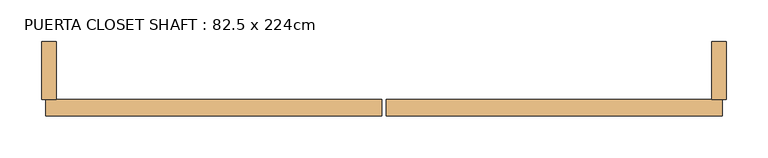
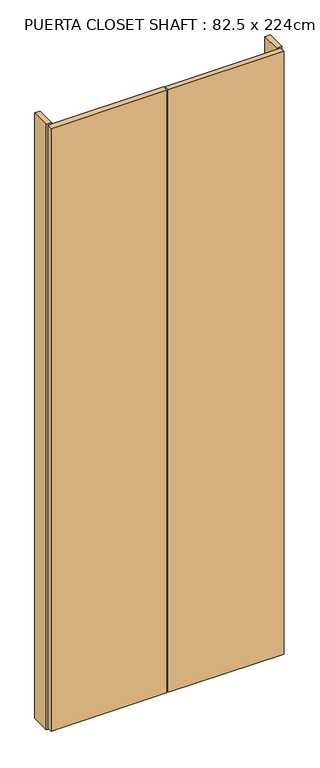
"""IFC4 building model written with IfcOpenShell, lengths in millimetres: door geometry, PUERTA CLOSET SHAFT : 82.5 x 224cm."""

import ifcopenshell
import ifcopenshell.guid

model = None  # the IFC model being written
_history = None  # IfcOwnerHistory: only IFC2X3 demands one
_inside = {}  # id of a spatial element -> (the spatial element, [elements in it])
_under = {}  # id of a project, library or spatial element -> (it, [spatial elements below it])
_declared = {}  # id of a project -> (the project, [libraries it declares])
_typed = {}  # id of a type object -> (the type object, [elements of that type])
_made_of = {}  # id of a material, layer set ... -> (it, [elements and type objects made of it])


def new_model(schema):
    """Start an empty IFC model of exactly this schema.

    Asked for "IFC4X3", IfcOpenShell would pick the latest addendum, in which some entities
    have other attributes; the version numbers below select the first issue.
    IFC2X3 requires an IfcOwnerHistory on every rooted entity: one is made here for all.
    """
    global model, _history
    if schema == "IFC4X3":
        model = ifcopenshell.file(schema_version=(4, 3, 0, 0))
    else:
        model = ifcopenshell.file(schema=schema)
    _inside.clear()
    _under.clear()
    _declared.clear()
    _typed.clear()
    _made_of.clear()
    _history = None
    if model.schema == "IFC2X3":
        org = make("IfcOrganization", Name="unknown")
        user = make(
            "IfcPersonAndOrganization",
            ThePerson=make("IfcPerson", FamilyName="unknown"),
            TheOrganization=org,
        )
        app = make(
            "IfcApplication",
            ApplicationDeveloper=org,
            Version="unknown",
            ApplicationFullName="unknown",
            ApplicationIdentifier="unknown",
        )
        _history = make(
            "IfcOwnerHistory",
            OwningUser=user,
            OwningApplication=app,
            ChangeAction="ADDED",
            CreationDate=0,
        )
    return model


def make(cls, **values):
    """One entity of the class cls with the attributes given. An attribute that is None is left unset."""
    return model.create_entity(
        cls, **{name: value for name, value in values.items() if value is not None}
    )


def rooted(cls, **values):
    """An entity with a GlobalId (a new one), such as an element, a storey or a relation."""
    return make(cls, GlobalId=ifcopenshell.guid.new(), OwnerHistory=_history, **values)


def si_unit(unit_type, name, prefix=None):
    """IfcSIUnit, for example si_unit("LENGTHUNIT", "METRE", prefix="MILLI")."""
    return make("IfcSIUnit", UnitType=unit_type, Prefix=prefix, Name=name)


def assignment(units):
    """IfcUnitAssignment: the units of a project."""
    return None if units is None else make("IfcUnitAssignment", Units=units)


def point(xyz):
    """IfcCartesianPoint."""
    return None if xyz is None else make("IfcCartesianPoint", Coordinates=xyz)


def direction(xyz):
    """IfcDirection."""
    return None if xyz is None else make("IfcDirection", DirectionRatios=xyz)


def frame(location, z_axis=None, x_axis=None):
    """IfcAxis2Placement3D, a coordinate frame: its origin and axes. An axis left out is left unset."""
    return make(
        "IfcAxis2Placement3D",
        Location=point(location),
        Axis=direction(z_axis),
        RefDirection=direction(x_axis),
    )


def origin():
    """The frame at (0, 0, 0) with its axes left unset."""
    return frame((0.0, 0.0, 0.0))


def origin_with_axes():
    """The frame at (0, 0, 0) with the z axis (0, 0, 1) and the x axis (1, 0, 0) written out."""
    return frame((0.0, 0.0, 0.0), z_axis=(0.0, 0.0, 1.0), x_axis=(1.0, 0.0, 0.0))


def place(relative_to, where):
    """IfcLocalPlacement: puts the frame where relative to a parent placement (None: the world)."""
    return make(
        "IfcLocalPlacement", PlacementRelTo=relative_to, RelativePlacement=where
    )


def context(
    kind, dimensions, precision=None, world=None, true_north=None, identifier=None
):
    """IfcGeometricRepresentationContext, for example the 3D "Model" context."""
    return make(
        "IfcGeometricRepresentationContext",
        ContextIdentifier=identifier,
        ContextType=kind,
        CoordinateSpaceDimension=dimensions,
        Precision=precision,
        WorldCoordinateSystem=world,
        TrueNorth=true_north,
    )


def project(units=None, contexts=None):
    """IfcProject with its units and contexts."""
    return rooted(
        "IfcProject",
        Name="project",
        RepresentationContexts=contexts,
        UnitsInContext=assignment(units),
    )


def spatial(cls, under=None, at=None, **own):
    """A site, building, storey or space (cls), placed at a placement, below another one or the project."""
    s = rooted(cls, ObjectPlacement=at, **own)
    if under is not None:
        _under.setdefault(under.id(), (under, []))[1].append(s)
    return s


def polyline(points):
    """IfcPolyline through the points."""
    return make("IfcPolyline", Points=[point(p) for p in points])


def outline(outer, holes=None, kind="AREA"):
    """IfcArbitraryClosedProfileDef: a profile drawn as a closed curve; with holes, ...WithVoids."""
    if holes is None:
        return make("IfcArbitraryClosedProfileDef", ProfileType=kind, OuterCurve=outer)
    return make(
        "IfcArbitraryProfileDefWithVoids",
        ProfileType=kind,
        OuterCurve=outer,
        InnerCurves=holes,
    )


def extrude(swept, where, along, depth):
    """IfcExtrudedAreaSolid: the profile swept, set in the frame where, extruded along a direction by depth."""
    return make(
        "IfcExtrudedAreaSolid",
        SweptArea=swept,
        Position=where,
        ExtrudedDirection=direction(along),
        Depth=depth,
    )


def shape(context_of_items, identifier, shape_type, items):
    """IfcShapeRepresentation: the items that make up one representation, for example the "Body"."""
    return make(
        "IfcShapeRepresentation",
        ContextOfItems=context_of_items,
        RepresentationIdentifier=identifier,
        RepresentationType=shape_type,
        Items=items,
    )


def source(mapping_origin, context_of_items, identifier, shape_type, items):
    """IfcRepresentationMap: a shape defined once, which mapped items show again and again."""
    return make(
        "IfcRepresentationMap",
        MappingOrigin=mapping_origin,
        MappedRepresentation=shape(context_of_items, identifier, shape_type, items),
    )


def transform(
    local_origin,
    x_axis=None,
    y_axis=None,
    z_axis=None,
    scale=None,
    scale2=None,
    scale3=None,
    uniform=True,
):
    """IfcCartesianTransformationOperator3D, or its non-uniform kind. x_axis, y_axis, z_axis: its Axis1, 2, 3."""
    if uniform:
        return make(
            "IfcCartesianTransformationOperator3D",
            Axis1=direction(x_axis),
            Axis2=direction(y_axis),
            LocalOrigin=point(local_origin),
            Scale=scale,
            Axis3=direction(z_axis),
        )
    return make(
        "IfcCartesianTransformationOperator3DnonUniform",
        Axis1=direction(x_axis),
        Axis2=direction(y_axis),
        LocalOrigin=point(local_origin),
        Scale=scale,
        Axis3=direction(z_axis),
        Scale2=scale2,
        Scale3=scale3,
    )


def mapped(mapping_source, mapping_target):
    """IfcMappedItem: shows the shape of a source again, moved by a transform."""
    return make(
        "IfcMappedItem", MappingSource=mapping_source, MappingTarget=mapping_target
    )


def made_of(thing, what):
    """Note that an element or type object is made of a material, layer set ...; save() writes the relation."""
    if what is not None:
        _made_of.setdefault(what.id(), (what, []))[1].append(thing)
    return thing


def element(
    cls,
    number,
    at=None,
    inside=None,
    cuts=None,
    type_object=None,
    material=None,
    context=None,
    identifier="Body",
    shape_type=None,
    held_by="IfcProductDefinitionShape",
    body=None,
    shapes=None,
    **own,
):
    """One element of the class cls, such as IfcWall. Its Tag is "e" and its number.

    at: its placement. inside: the storey or other place that contains it. cuts: it is an
    opening in that element (IfcRelVoidsElement). A single representation is given by context,
    identifier, shape_type and body (its items); several are given by shapes. held_by: the class
    of the entity that holds the representations. save() writes the other relations.
    """
    e = rooted(cls, Tag="e%d" % number, ObjectPlacement=at, **own)
    if body is not None:
        shapes = [shape(context, identifier, shape_type, body)]
    if shapes is not None:
        e.Representation = make(held_by, Representations=shapes)
    if inside is not None:
        _inside.setdefault(inside.id(), (inside, []))[1].append(e)
    if cuts is not None:
        rooted(
            "IfcRelVoidsElement", RelatingBuildingElement=cuts, RelatedOpeningElement=e
        )
    if type_object is not None:
        _typed.setdefault(type_object.id(), (type_object, []))[1].append(e)
    return made_of(e, material)


def aggregate(whole, parts):
    """IfcRelAggregates: a whole, such as a stair, and the parts it consists of."""
    return rooted("IfcRelAggregates", RelatingObject=whole, RelatedObjects=parts)


def save(model, path):
    """Write the relations noted so far, then the file.

    IfcRelAggregates (storeys below a building ...), IfcRelContainedInSpatialStructure (elements
    in a storey), IfcRelDefinesByType, IfcRelAssociatesMaterial and IfcRelDeclares: one each for
    every whole, place, type object, material and project.
    """
    for whole, parts in _under.values():
        aggregate(whole, parts)
    for where, things in _inside.values():
        rooted(
            "IfcRelContainedInSpatialStructure",
            RelatedElements=things,
            RelatingStructure=where,
        )
    for kind, things in _typed.values():
        rooted("IfcRelDefinesByType", RelatedObjects=things, RelatingType=kind)
    for what, things in _made_of.values():
        rooted("IfcRelAssociatesMaterial", RelatedObjects=things, RelatingMaterial=what)
    for by, libraries in _declared.values():
        rooted("IfcRelDeclares", RelatingContext=by, RelatedDefinitions=libraries)
    model.write(path)


def puerta_closet_shaft_82_5_x_224cm_6ba6ac82(model_context):
    return source(origin(), model_context, "Body", "SweptSolid", [
        extrude(outline(polyline([(-1139.0315708, -35.0), (-734.0315708, -35.0), (-734.0315708, -55.0), (-1139.0315708, -55.0), (-1139.0315708, -35.0)])), frame((0.0, 0.0, 5.0), z_axis=(0.0, 0.0, 1.0), x_axis=(1.0, 0.0, 0.0)), (0.0, 0.0, 1.0), 2230.0),
        extrude(outline(polyline([(-1144.0315708, -35.0), (-1144.0315708, -55.0), (-1549.0315708, -55.0), (-1549.0315708, -35.0), (-1144.0315708, -35.0)])), frame((0.0, 0.0, 5.0), z_axis=(0.0, 0.0, 1.0), x_axis=(1.0, 0.0, 0.0)), (0.0, 0.0, 1.0), 2230.0),
        extrude(outline(polyline([(-729.0315708, -35.0), (-747.0315708, -35.0), (-747.0315708, 35.0), (-729.0315708, 35.0), (-729.0315708, -35.0)])), origin_with_axes(), (0.0, 0.0, 1.0), 2240.0),
        extrude(outline(polyline([(-1536.0315708, -35.0), (-1554.0315708, -35.0), (-1554.0315708, 35.0), (-1536.0315708, 35.0), (-1536.0315708, -35.0)])), origin_with_axes(), (0.0, 0.0, 1.0), 2240.0),
    ])


if __name__ == "__main__":
    model = new_model("IFC4")
    model_context = context("Model", 3, world=origin())
    ifc_project = project(units=[si_unit("LENGTHUNIT", "METRE", prefix="MILLI")], contexts=[model_context])
    site = spatial("IfcSite", under=ifc_project)
    building = spatial("IfcBuilding", under=site)
    placement = place(None, origin())
    puerta_closet_shaft_82_5_x_224cm_shape = puerta_closet_shaft_82_5_x_224cm_6ba6ac82(model_context)
    element("IfcDoor", 1, ObjectType="PUERTA CLOSET SHAFT : 82.5 x 224cm", at=placement, inside=building, context=model_context, shape_type="MappedRepresentation", body=[
        mapped(puerta_closet_shaft_82_5_x_224cm_shape, transform((0.0, 0.0, 0.0), x_axis=(1.0, 0.0, 0.0), y_axis=(0.0, 1.0, 0.0), z_axis=(0.0, 0.0, 1.0))),
    ])
    save(model, "model.ifc")
